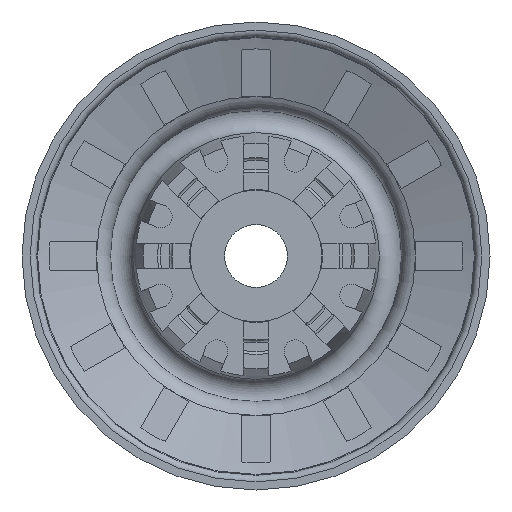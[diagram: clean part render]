
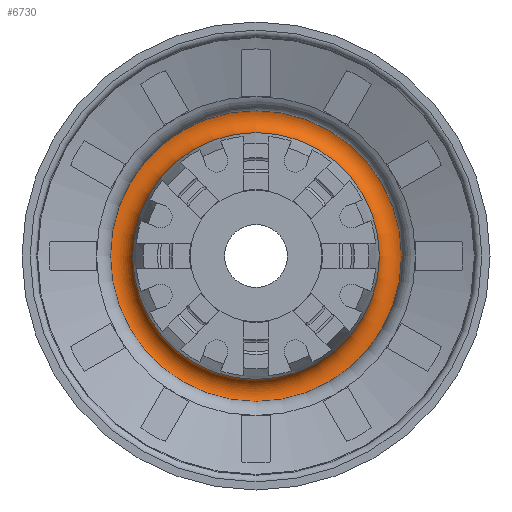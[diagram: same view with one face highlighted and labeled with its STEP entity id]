
A CAD part, front view. The second image highlights one B-rep face of the part: STEP entity #6730.
In plain terms, the highlighted toroidal (fillet/blend) face has major radius 9.494 mm and minor radius 1.099 mm.
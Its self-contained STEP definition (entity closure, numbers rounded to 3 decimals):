
#88 = CARTESIAN_POINT ( 'NONE',  ( 0., 11.764, 8.432 ) ) ;
#1558 = ORIENTED_EDGE ( 'NONE', *, *, #2935, .F. ) ;
#1729 = CARTESIAN_POINT ( 'NONE',  ( 0., 11.479, 0. ) ) ;
#1787 = AXIS2_PLACEMENT_3D ( 'NONE', #1729, #8339, #10312 ) ;
#2243 = AXIS2_PLACEMENT_3D ( 'NONE', #6914, #3843, #4894 ) ;
#2935 = EDGE_CURVE ( 'NONE', #12979, #12979, #9143, .T. ) ;
#3843 = DIRECTION ( 'NONE',  ( 0., 1., 0. ) ) ;
#4447 = DIRECTION ( 'NONE',  ( 0., 0., 1. ) ) ;
#4579 = CARTESIAN_POINT ( 'NONE',  ( 0., 12.356, 10.157 ) ) ;
#4894 = DIRECTION ( 'NONE',  ( 0., 0., 1. ) ) ;
#5665 = VERTEX_POINT ( 'NONE', #88 ) ;
#6730 = ADVANCED_FACE ( 'NONE', ( #6909, #11369 ), #11558, .F. ) ;
#6909 = FACE_OUTER_BOUND ( 'NONE', #12602, .T. ) ;
#6914 = CARTESIAN_POINT ( 'NONE',  ( 0., 11.764, 0. ) ) ;
#7100 = EDGE_CURVE ( 'NONE', #5665, #5665, #9657, .T. ) ;
#8339 = DIRECTION ( 'NONE',  ( 0., 1., 0. ) ) ;
#8939 = CARTESIAN_POINT ( 'NONE',  ( 0., 12.356, 0. ) ) ;
#9143 = CIRCLE ( 'NONE', #10057, 10.157 ) ;
#9657 = CIRCLE ( 'NONE', #2243, 8.432 ) ;
#10057 = AXIS2_PLACEMENT_3D ( 'NONE', #8939, #13415, #4447 ) ;
#10164 = ORIENTED_EDGE ( 'NONE', *, *, #7100, .T. ) ;
#10312 = DIRECTION ( 'NONE',  ( 0., 0., 1. ) ) ;
#11369 = FACE_OUTER_BOUND ( 'NONE', #13589, .T. ) ;
#11558 = TOROIDAL_SURFACE ( 'NONE', #1787, 9.494, 1.099 ) ;
#12602 = EDGE_LOOP ( 'NONE', ( #10164 ) ) ;
#12979 = VERTEX_POINT ( 'NONE', #4579 ) ;
#13415 = DIRECTION ( 'NONE',  ( 0., 1., 0. ) ) ;
#13589 = EDGE_LOOP ( 'NONE', ( #1558 ) ) ;
